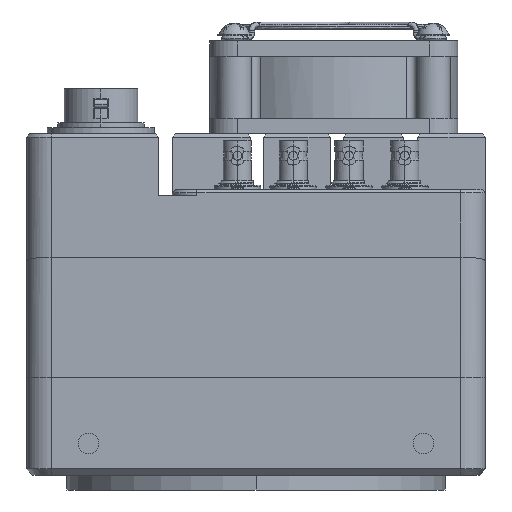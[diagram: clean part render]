
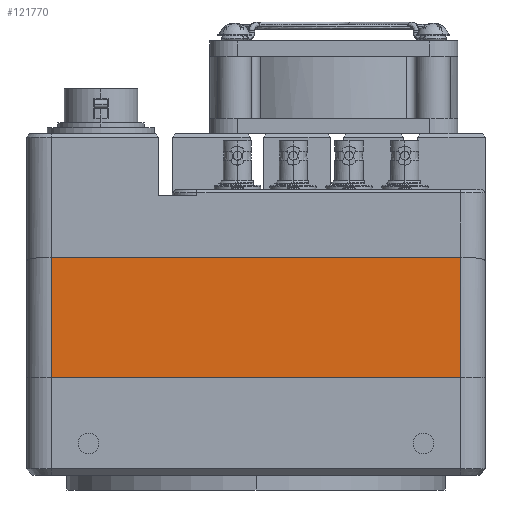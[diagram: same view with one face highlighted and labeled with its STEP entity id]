
A CAD part, left-side view. The second image highlights one B-rep face of the part: STEP entity #121770.
In plain terms, the highlighted planar face has unit normal (-1, 0, 0).
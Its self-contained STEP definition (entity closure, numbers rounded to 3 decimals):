
#178 = DIRECTION ( 'NONE',  ( 0., 0., -1. ) ) ;
#5516 = DIRECTION ( 'NONE',  ( 0., 1., 0. ) ) ;
#30149 = EDGE_LOOP ( 'NONE', ( #110774, #74360, #132880, #168529 ) ) ;
#35796 = CARTESIAN_POINT ( 'NONE',  ( -38.778, -36.309, 80.83 ) ) ;
#36618 = VECTOR ( 'NONE', #137732, 1000. ) ;
#47361 = DIRECTION ( 'NONE',  ( 1., 0., 0. ) ) ;
#47568 = VERTEX_POINT ( 'NONE', #107363 ) ;
#59704 = CARTESIAN_POINT ( 'NONE',  ( -38.778, 29.691, 100.29 ) ) ;
#65842 = EDGE_CURVE ( 'NONE', #95264, #114939, #179416, .T. ) ;
#74360 = ORIENTED_EDGE ( 'NONE', *, *, #85781, .T. ) ;
#85781 = EDGE_CURVE ( 'NONE', #95264, #47568, #162793, .T. ) ;
#85826 = CARTESIAN_POINT ( 'NONE',  ( -38.778, -36.309, 80.83 ) ) ;
#90648 = DIRECTION ( 'NONE',  ( 0., 1., 0. ) ) ;
#95264 = VERTEX_POINT ( 'NONE', #85826 ) ;
#98106 = CARTESIAN_POINT ( 'NONE',  ( -38.778, 29.691, 83.83 ) ) ;
#98136 = VECTOR ( 'NONE', #178, 1000. ) ;
#102721 = AXIS2_PLACEMENT_3D ( 'NONE', #130808, #47361, #103497 ) ;
#103497 = DIRECTION ( 'NONE',  ( 0., 0., -1. ) ) ;
#107363 = CARTESIAN_POINT ( 'NONE',  ( -38.778, -36.309, 100.29 ) ) ;
#107676 = EDGE_CURVE ( 'NONE', #130066, #114939, #137339, .T. ) ;
#110774 = ORIENTED_EDGE ( 'NONE', *, *, #65842, .F. ) ;
#111078 = CARTESIAN_POINT ( 'NONE',  ( -38.778, -36.309, 83.83 ) ) ;
#114939 = VERTEX_POINT ( 'NONE', #126536 ) ;
#121770 = ADVANCED_FACE ( 'NONE', ( #162832 ), #129020, .F. ) ;
#126536 = CARTESIAN_POINT ( 'NONE',  ( -38.778, 29.691, 80.83 ) ) ;
#129020 = PLANE ( 'NONE',  #102721 ) ;
#130066 = VERTEX_POINT ( 'NONE', #59704 ) ;
#130808 = CARTESIAN_POINT ( 'NONE',  ( -38.778, -35.309, 83.83 ) ) ;
#132880 = ORIENTED_EDGE ( 'NONE', *, *, #145482, .T. ) ;
#137339 = LINE ( 'NONE', #98106, #98136 ) ;
#137732 = DIRECTION ( 'NONE',  ( 0., 0., 1. ) ) ;
#138106 = VECTOR ( 'NONE', #90648, 1000. ) ;
#145482 = EDGE_CURVE ( 'NONE', #47568, #130066, #170151, .T. ) ;
#146238 = VECTOR ( 'NONE', #5516, 1000. ) ;
#155670 = CARTESIAN_POINT ( 'NONE',  ( -38.778, 152.925, 100.29 ) ) ;
#162793 = LINE ( 'NONE', #111078, #36618 ) ;
#162832 = FACE_OUTER_BOUND ( 'NONE', #30149, .T. ) ;
#168529 = ORIENTED_EDGE ( 'NONE', *, *, #107676, .T. ) ;
#170151 = LINE ( 'NONE', #155670, #146238 ) ;
#179416 = LINE ( 'NONE', #35796, #138106 ) ;
